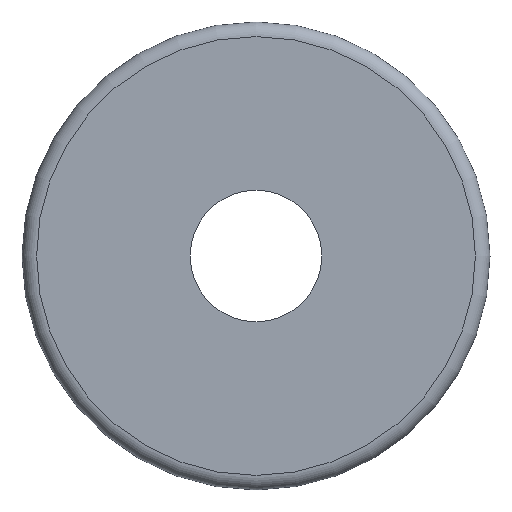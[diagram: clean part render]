
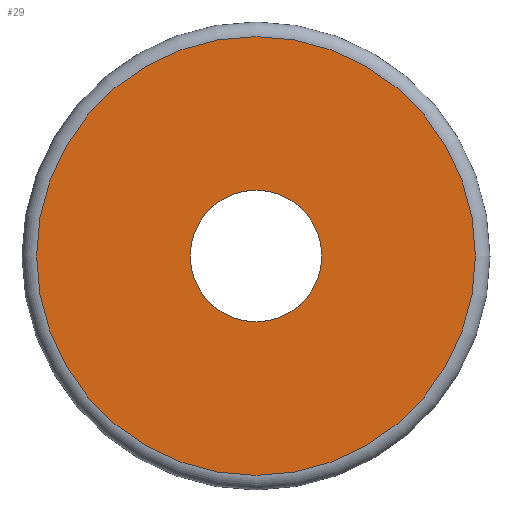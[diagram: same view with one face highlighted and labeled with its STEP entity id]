
A CAD part, front view. The second image highlights one B-rep face of the part: STEP entity #29.
In plain terms, the highlighted planar face has unit normal (0, -1, 0).
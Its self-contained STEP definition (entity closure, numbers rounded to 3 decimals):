
#29=ADVANCED_FACE('',(#56,#57),#58,.T.);
#56=FACE_BOUND('',#83,.T.);
#57=FACE_OUTER_BOUND('',#84,.T.);
#58=PLANE('',#85);
#83=EDGE_LOOP('',(#104));
#84=EDGE_LOOP('',(#105));
#85=AXIS2_PLACEMENT_3D('',#106,#107,#108);
#104=ORIENTED_EDGE('',*,*,#134,.T.);
#105=ORIENTED_EDGE('',*,*,#135,.T.);
#106=CARTESIAN_POINT('',(0.,-1.5,0.));
#107=DIRECTION('',(0.0,-1.0,0.0));
#108=DIRECTION('',(1.0,0.0,0.0));
#134=EDGE_CURVE('',#144,#144,#145,.T.);
#135=EDGE_CURVE('',#146,#146,#147,.T.);
#144=VERTEX_POINT('',#159);
#145=CIRCLE('',#160,2.25);
#146=VERTEX_POINT('',#161);
#147=CIRCLE('',#162,7.5);
#159=CARTESIAN_POINT('',(2.25,-1.5,0.));
#160=AXIS2_PLACEMENT_3D('',#173,#174,#175);
#161=CARTESIAN_POINT('',(7.5,-1.5,0.));
#162=AXIS2_PLACEMENT_3D('',#176,#177,#178);
#173=CARTESIAN_POINT('',(0.,-1.5,0.));
#174=DIRECTION('',(-0.0,1.0,0.0));
#175=DIRECTION('',(1.0,0.0,0.0));
#176=CARTESIAN_POINT('',(0.,-1.5,0.));
#177=DIRECTION('',(0.0,-1.0,0.0));
#178=DIRECTION('',(1.0,0.0,0.0));
